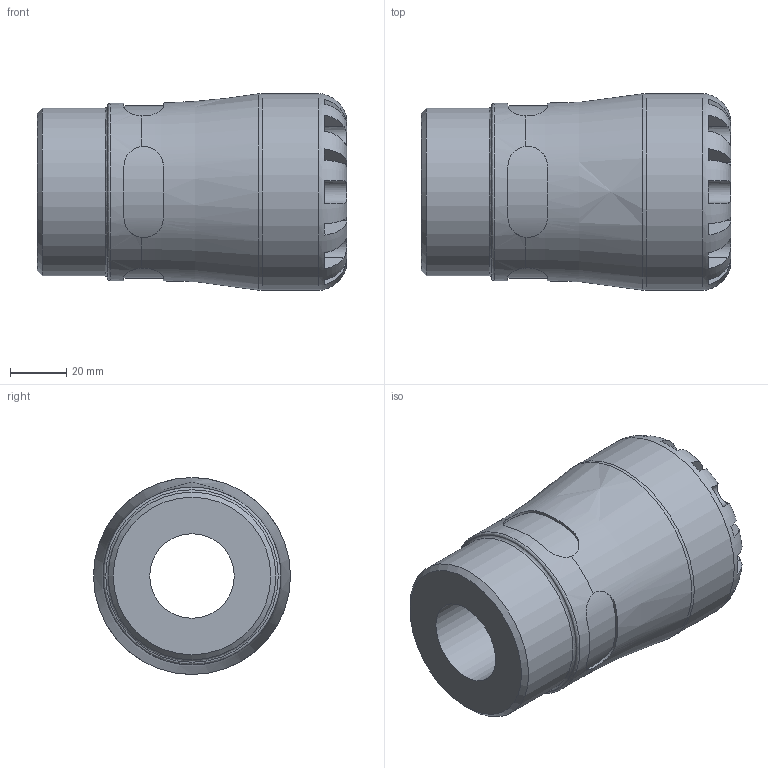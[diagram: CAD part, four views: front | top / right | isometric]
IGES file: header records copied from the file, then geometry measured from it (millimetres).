
Global section: file name: 100200040020_190200040020.ipt; native system: Autodesk Inventor 2015; preprocessor: unknown; author: KIM; date: 20170727.143951; units: millimetre
Bounding box: 110 x 70 x 70 mm (x, y, z)
Volume: 238638.8 mm3; surface area: 41518.9 mm2
Topology: 1 solids, 1 shells, 99 faces, 266 edges, 170 vertices
Faces by surface type: plane 59, revolution 24, cylinder 15, cone 1
Full cylindrical faces by diameter (mm): 59.614 x1, 63 x1, 70 x1
